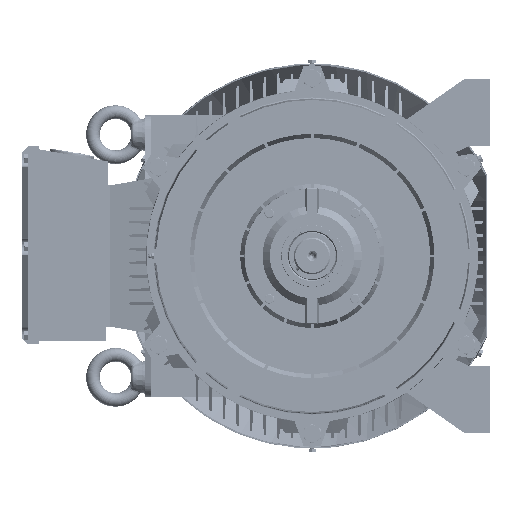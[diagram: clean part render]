
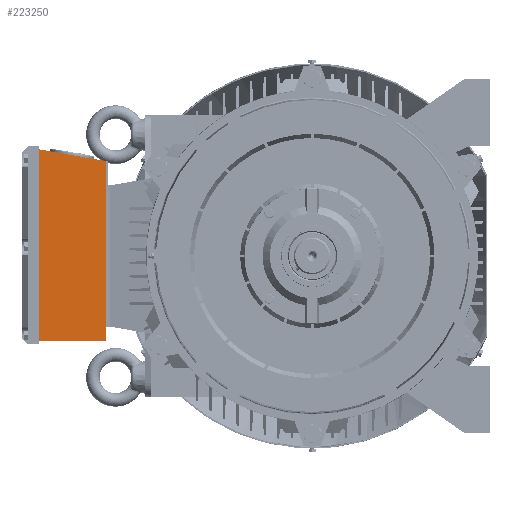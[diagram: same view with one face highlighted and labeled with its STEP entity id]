
A CAD part, left-side view. The second image highlights one B-rep face of the part: STEP entity #223250.
In plain terms, the highlighted planar face has unit normal (-1, 0, 0).
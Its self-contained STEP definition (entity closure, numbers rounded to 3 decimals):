
#1608 = EDGE_CURVE ( 'NONE', #227432, #180397, #267648, .T. ) ;
#12515 = CARTESIAN_POINT ( 'NONE',  ( -139.172, 331.262, -151. ) ) ;
#17661 = CARTESIAN_POINT ( 'NONE',  ( -139.172, 450.262, -151. ) ) ;
#29102 = LINE ( 'NONE', #98542, #182492 ) ;
#29305 = FACE_OUTER_BOUND ( 'NONE', #187105, .T. ) ;
#77515 = DIRECTION ( 'NONE',  ( 0., 0.985, 0.174 ) ) ;
#95884 = CARTESIAN_POINT ( 'NONE',  ( -139.172, 450.262, -125. ) ) ;
#98542 = CARTESIAN_POINT ( 'NONE',  ( -139.172, 331.262, -151. ) ) ;
#99959 = DIRECTION ( 'NONE',  ( 0., 0., 1. ) ) ;
#100824 = DIRECTION ( 'NONE',  ( 0., -1., 0. ) ) ;
#117075 = CARTESIAN_POINT ( 'NONE',  ( -139.172, 331.262, -151. ) ) ;
#126478 = VERTEX_POINT ( 'NONE', #191807 ) ;
#138813 = VERTEX_POINT ( 'NONE', #117075 ) ;
#153332 = CARTESIAN_POINT ( 'NONE',  ( -139.172, 328.262, 167.5 ) ) ;
#158140 = DIRECTION ( 'NONE',  ( -1., 0., 0. ) ) ;
#159573 = PLANE ( 'NONE',  #224786 ) ;
#170472 = CARTESIAN_POINT ( 'NONE',  ( -139.172, 450.262, 189.012 ) ) ;
#180397 = VERTEX_POINT ( 'NONE', #170472 ) ;
#182492 = VECTOR ( 'NONE', #99959, 1000. ) ;
#184141 = DIRECTION ( 'NONE',  ( 0., 0., 1. ) ) ;
#187105 = EDGE_LOOP ( 'NONE', ( #208875, #262822, #212851, #241709 ) ) ;
#191807 = CARTESIAN_POINT ( 'NONE',  ( -139.172, 450.262, -151. ) ) ;
#194224 = DIRECTION ( 'NONE',  ( 0., 0., -1. ) ) ;
#208875 = ORIENTED_EDGE ( 'NONE', *, *, #277234, .T. ) ;
#212851 = ORIENTED_EDGE ( 'NONE', *, *, #276994, .T. ) ;
#220271 = EDGE_CURVE ( 'NONE', #126478, #138813, #232558, .T. ) ;
#223250 = ADVANCED_FACE ( 'NONE', ( #29305 ), #159573, .T. ) ;
#224786 = AXIS2_PLACEMENT_3D ( 'NONE', #95884, #158140, #184141 ) ;
#227432 = VERTEX_POINT ( 'NONE', #281878 ) ;
#232558 = LINE ( 'NONE', #12515, #247347 ) ;
#241709 = ORIENTED_EDGE ( 'NONE', *, *, #220271, .T. ) ;
#242408 = VECTOR ( 'NONE', #194224, 1000. ) ;
#247347 = VECTOR ( 'NONE', #100824, 1000. ) ;
#260824 = LINE ( 'NONE', #17661, #242408 ) ;
#262822 = ORIENTED_EDGE ( 'NONE', *, *, #1608, .T. ) ;
#267648 = LINE ( 'NONE', #153332, #281361 ) ;
#276994 = EDGE_CURVE ( 'NONE', #180397, #126478, #260824, .T. ) ;
#277234 = EDGE_CURVE ( 'NONE', #138813, #227432, #29102, .T. ) ;
#281361 = VECTOR ( 'NONE', #77515, 1000. ) ;
#281878 = CARTESIAN_POINT ( 'NONE',  ( -139.172, 331.262, 168.029 ) ) ;
